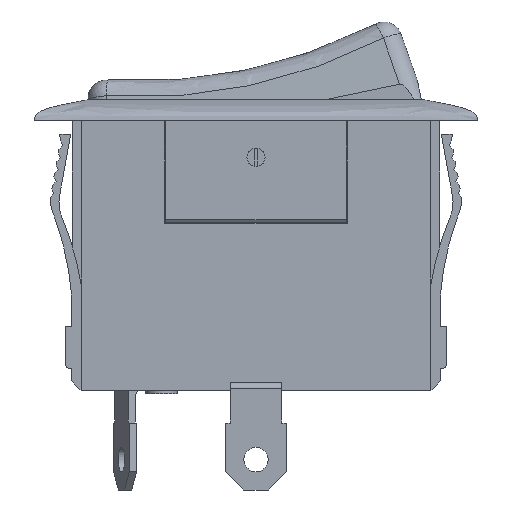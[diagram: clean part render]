
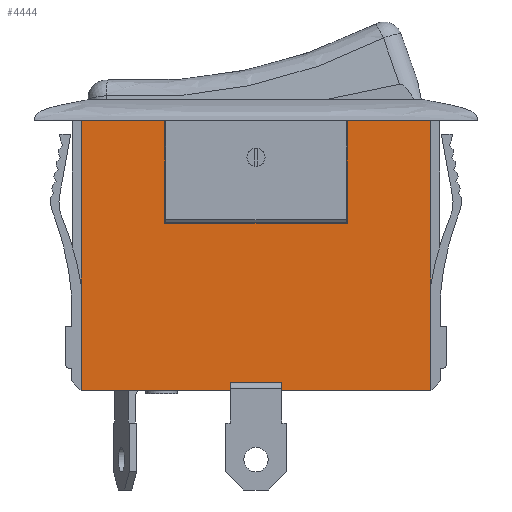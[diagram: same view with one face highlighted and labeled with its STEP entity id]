
A CAD part, front view. The second image highlights one B-rep face of the part: STEP entity #4444.
In plain terms, the highlighted planar face has unit normal (0, -1, 0).
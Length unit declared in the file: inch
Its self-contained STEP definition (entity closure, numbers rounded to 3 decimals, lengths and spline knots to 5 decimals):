
#257=PLANE('',#4850);
#464=FACE_OUTER_BOUND('',#697,.T.);
#697=EDGE_LOOP('',(#3906,#3907,#3908,#3909,#3910,#3911,#3912,#3913,#3914,
#3915,#3916,#3917));
#866=LINE('',#6392,#1404);
#878=LINE('',#6421,#1416);
#1151=LINE('',#7023,#1689);
#1154=LINE('',#7029,#1692);
#1156=LINE('',#7032,#1694);
#1161=LINE('',#7042,#1699);
#1162=LINE('',#7043,#1700);
#1188=LINE('',#7097,#1726);
#1194=LINE('',#7109,#1732);
#1197=LINE('',#7114,#1735);
#1214=LINE('',#7148,#1752);
#1215=LINE('',#7149,#1753);
#1404=VECTOR('',#5140,0.3937);
#1416=VECTOR('',#5166,0.3937);
#1689=VECTOR('',#5719,0.3937);
#1692=VECTOR('',#5724,0.3937);
#1694=VECTOR('',#5728,0.3937);
#1699=VECTOR('',#5735,0.3937);
#1700=VECTOR('',#5736,0.3937);
#1726=VECTOR('',#5788,0.3937);
#1732=VECTOR('',#5796,0.3937);
#1735=VECTOR('',#5803,0.3937);
#1752=VECTOR('',#5838,0.3937);
#1753=VECTOR('',#5839,0.3937);
#2009=VERTEX_POINT('',#6389);
#2010=VERTEX_POINT('',#6391);
#2019=VERTEX_POINT('',#6418);
#2020=VERTEX_POINT('',#6420);
#2208=VERTEX_POINT('',#7020);
#2209=VERTEX_POINT('',#7022);
#2210=VERTEX_POINT('',#7026);
#2211=VERTEX_POINT('',#7028);
#2228=VERTEX_POINT('',#7093);
#2230=VERTEX_POINT('',#7096);
#2233=VERTEX_POINT('',#7103);
#2235=VERTEX_POINT('',#7107);
#2445=EDGE_CURVE('',#2010,#2009,#866,.T.);
#2459=EDGE_CURVE('',#2019,#2020,#878,.T.);
#2762=EDGE_CURVE('',#2209,#2208,#1151,.T.);
#2765=EDGE_CURVE('',#2211,#2210,#1154,.T.);
#2767=EDGE_CURVE('',#2208,#2211,#1156,.T.);
#2772=EDGE_CURVE('',#2010,#2210,#1161,.T.);
#2773=EDGE_CURVE('',#2209,#2019,#1162,.T.);
#2799=EDGE_CURVE('',#2230,#2228,#1188,.T.);
#2805=EDGE_CURVE('',#2233,#2235,#1194,.T.);
#2808=EDGE_CURVE('',#2235,#2230,#1197,.T.);
#2825=EDGE_CURVE('',#2233,#2009,#1214,.T.);
#2826=EDGE_CURVE('',#2020,#2228,#1215,.T.);
#3906=ORIENTED_EDGE('',*,*,#2765,.T.);
#3907=ORIENTED_EDGE('',*,*,#2772,.F.);
#3908=ORIENTED_EDGE('',*,*,#2445,.T.);
#3909=ORIENTED_EDGE('',*,*,#2825,.F.);
#3910=ORIENTED_EDGE('',*,*,#2805,.T.);
#3911=ORIENTED_EDGE('',*,*,#2808,.T.);
#3912=ORIENTED_EDGE('',*,*,#2799,.T.);
#3913=ORIENTED_EDGE('',*,*,#2826,.F.);
#3914=ORIENTED_EDGE('',*,*,#2459,.F.);
#3915=ORIENTED_EDGE('',*,*,#2773,.F.);
#3916=ORIENTED_EDGE('',*,*,#2762,.T.);
#3917=ORIENTED_EDGE('',*,*,#2767,.T.);
#4444=ADVANCED_FACE('',(#464),#257,.T.);
#4850=AXIS2_PLACEMENT_3D('',#7147,#5836,#5837);
#5140=DIRECTION('',(0.,0.,-1.));
#5166=DIRECTION('',(0.,0.,-1.));
#5719=DIRECTION('',(0.,0.,-1.));
#5724=DIRECTION('',(0.,0.,1.));
#5728=DIRECTION('',(-1.,0.,0.));
#5735=DIRECTION('',(1.,0.,0.));
#5736=DIRECTION('',(1.,0.,0.));
#5788=DIRECTION('',(0.,0.,-1.));
#5796=DIRECTION('',(0.,0.,1.));
#5803=DIRECTION('',(1.,0.,0.));
#5836=DIRECTION('center_axis',(0.,-1.,0.));
#5837=DIRECTION('ref_axis',(-1.,0.,0.));
#5838=DIRECTION('',(-1.,0.,0.));
#5839=DIRECTION('',(-1.,0.,0.));
#6389=CARTESIAN_POINT('',(0.193,0.0985,-1.106));
#6391=CARTESIAN_POINT('',(0.193,0.0985,0.));
#6392=CARTESIAN_POINT('',(0.193,0.0985,0.));
#6418=CARTESIAN_POINT('',(1.63,0.0985,0.));
#6420=CARTESIAN_POINT('',(1.63,0.0985,-1.106));
#6421=CARTESIAN_POINT('',(1.63,0.0985,0.));
#7020=CARTESIAN_POINT('',(1.2865,0.0985,-0.421));
#7022=CARTESIAN_POINT('',(1.2865,0.0985,0.));
#7023=CARTESIAN_POINT('',(1.2865,0.0985,0.01));
#7026=CARTESIAN_POINT('',(0.5365,0.0985,0.));
#7028=CARTESIAN_POINT('',(0.5365,0.0985,-0.421));
#7029=CARTESIAN_POINT('',(0.5365,0.0985,-0.2105));
#7032=CARTESIAN_POINT('',(1.45825,0.0985,-0.421));
#7042=CARTESIAN_POINT('',(1.27075,0.0985,0.));
#7043=CARTESIAN_POINT('',(1.27075,0.0985,0.));
#7093=CARTESIAN_POINT('',(1.0165,0.0985,-1.106));
#7096=CARTESIAN_POINT('',(1.0165,0.0985,-1.075));
#7097=CARTESIAN_POINT('',(1.0165,0.0985,-0.553));
#7103=CARTESIAN_POINT('',(0.8065,0.0985,-1.106));
#7107=CARTESIAN_POINT('',(0.8065,0.0985,-1.075));
#7109=CARTESIAN_POINT('',(0.8065,0.0985,-0.553));
#7114=CARTESIAN_POINT('',(1.27075,0.0985,-1.075));
#7147=CARTESIAN_POINT('Origin',(1.63,0.0985,0.));
#7148=CARTESIAN_POINT('',(0.193,0.0985,-1.106));
#7149=CARTESIAN_POINT('',(0.193,0.0985,-1.106));
